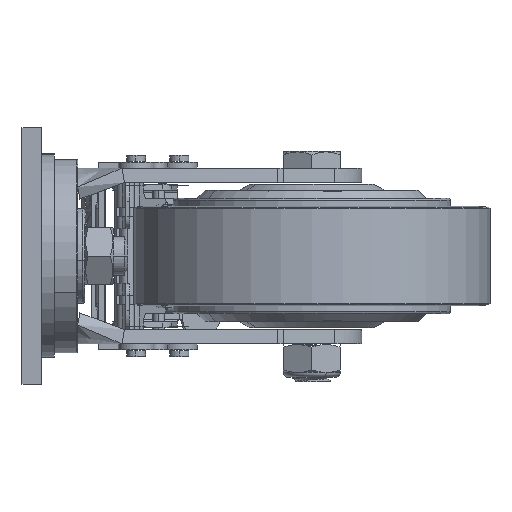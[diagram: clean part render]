
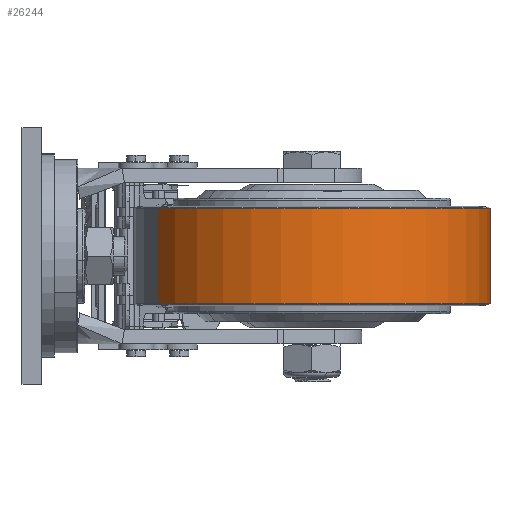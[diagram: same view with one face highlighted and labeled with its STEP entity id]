
A CAD part, left-side view. The second image highlights one B-rep face of the part: STEP entity #26244.
In plain terms, the highlighted cylindrical face has radius 75 mm (diameter 150 mm), a partial arc.
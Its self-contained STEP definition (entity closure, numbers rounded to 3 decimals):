
#23188=CARTESIAN_POINT('',(42.,-122.,20.));
#23189=DIRECTION('',(0.,0.,-1.));
#23190=DIRECTION('',(0.5,-0.866,0.));
#23191=AXIS2_PLACEMENT_3D('',#23188,#23189,#23190);
#23193=DIRECTION('',(0.,0.,-1.));
#23194=VECTOR('',#23193,40.);
#23195=CARTESIAN_POINT('',(79.5,-186.952,
20.));
#23196=LINE('',#23195,#23194);
#23197=CARTESIAN_POINT('',(42.,-122.,-20.));
#23198=DIRECTION('',(0.,0.,-1.));
#23199=DIRECTION('',(0.5,-0.866,0.));
#23200=AXIS2_PLACEMENT_3D('',#23197,#23198,#23199);
#23202=DIRECTION('',(0.,0.,-1.));
#23203=VECTOR('',#23202,40.);
#23204=CARTESIAN_POINT('',(4.5,-57.048,
20.));
#23205=LINE('',#23204,#23203);
#24919=CARTESIAN_POINT('',(4.5,-57.048,20.));
#24920=CARTESIAN_POINT('',(79.5,-186.952,20.));
#24921=VERTEX_POINT('',#24919);
#24922=VERTEX_POINT('',#24920);
#24931=CARTESIAN_POINT('',(4.5,-57.048,-20.));
#24932=CARTESIAN_POINT('',(79.5,-186.952,-20.));
#24933=VERTEX_POINT('',#24931);
#24934=VERTEX_POINT('',#24932);
#26231=CARTESIAN_POINT('',(42.,-122.,-23.1));
#26232=DIRECTION('',(0.,0.,1.));
#26233=DIRECTION('',(-0.5,0.866,0.));
#26234=AXIS2_PLACEMENT_3D('',#26231,#26232,#26233);
#26235=CYLINDRICAL_SURFACE('',#26234,75.);
#26237=ORIENTED_EDGE('',*,*,#26236,.F.);
#26238=ORIENTED_EDGE('',*,*,#25540,.T.);
#26240=ORIENTED_EDGE('',*,*,#26239,.T.);
#26241=ORIENTED_EDGE('',*,*,#25536,.F.);
#26242=EDGE_LOOP('',(#26237,#26238,#26240,#26241));
#26243=FACE_OUTER_BOUND('',#26242,.F.);
#23192=CIRCLE('',#23191,75.);
#23201=CIRCLE('',#23200,75.);
#25536=EDGE_CURVE('',#24921,#24933,#23205,.T.);
#25540=EDGE_CURVE('',#24922,#24934,#23196,.T.);
#26236=EDGE_CURVE('',#24922,#24921,#23192,.T.);
#26239=EDGE_CURVE('',#24934,#24933,#23201,.T.);
#26244=ADVANCED_FACE('',(#26243),#26235,.T.);
